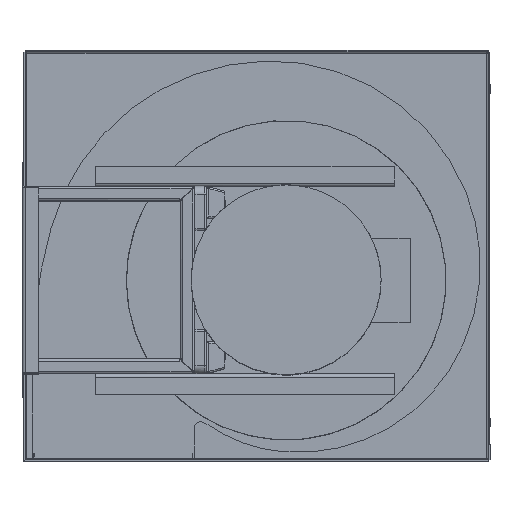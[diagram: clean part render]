
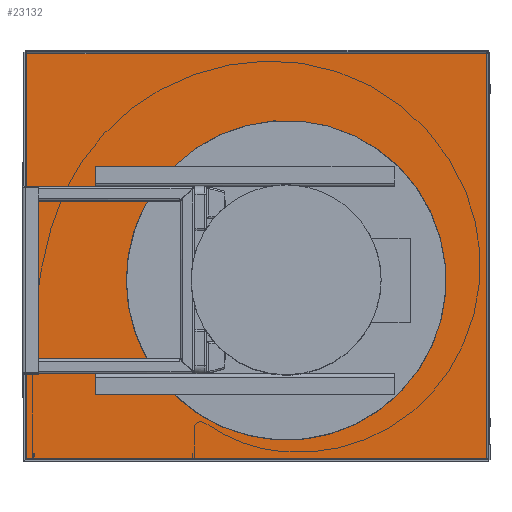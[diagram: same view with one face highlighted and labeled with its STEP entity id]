
A CAD part, top view. The second image highlights one B-rep face of the part: STEP entity #23132.
In plain terms, the highlighted planar face has unit normal (0, 0, 1).
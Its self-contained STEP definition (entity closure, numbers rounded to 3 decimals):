
#333=CIRCLE('',#23543,11.65);
#2774=FACE_BOUND('',#5269,.T.);
#3987=FACE_OUTER_BOUND('',#5268,.T.);
#5268=EDGE_LOOP('',(#20589,#20590,#20591,#20592));
#5269=EDGE_LOOP('',(#20593));
#7275=LINE('',#47719,#9247);
#7276=LINE('',#47721,#9248);
#7277=LINE('',#47723,#9249);
#7278=LINE('',#47724,#9250);
#9247=VECTOR('',#29654,35.875);
#9248=VECTOR('',#29655,49.6);
#9249=VECTOR('',#29656,56.4);
#9250=VECTOR('',#29657,49.6);
#10394=VERTEX_POINT('',#37873);
#11373=VERTEX_POINT('',#47717);
#11374=VERTEX_POINT('',#47718);
#11375=VERTEX_POINT('',#47720);
#11376=VERTEX_POINT('',#47722);
#12954=EDGE_CURVE('',#10394,#10394,#333,.T.);
#14628=EDGE_CURVE('',#11373,#11374,#7275,.T.);
#14629=EDGE_CURVE('',#11374,#11375,#7276,.T.);
#14630=EDGE_CURVE('',#11375,#11376,#7277,.T.);
#14631=EDGE_CURVE('',#11376,#11373,#7278,.T.);
#20589=ORIENTED_EDGE('',*,*,#14628,.T.);
#20590=ORIENTED_EDGE('',*,*,#14629,.T.);
#20591=ORIENTED_EDGE('',*,*,#14630,.T.);
#20592=ORIENTED_EDGE('',*,*,#14631,.T.);
#20593=ORIENTED_EDGE('',*,*,#12954,.T.);
#21936=PLANE('',#24690);
#23132=ADVANCED_FACE('',(#3987,#2774),#21936,.F.);
#23543=AXIS2_PLACEMENT_3D('',#37874,#26280,#26281);
#24690=AXIS2_PLACEMENT_3D('',#47716,#29652,#29653);
#26280=DIRECTION('center_axis',(0.,0.,-1.));
#26281=DIRECTION('ref_axis',(0.,1.,0.));
#29652=DIRECTION('center_axis',(0.,0.,-1.));
#29653=DIRECTION('ref_axis',(-1.,0.,0.));
#29654=DIRECTION('',(1.,0.,0.));
#29655=DIRECTION('',(0.,1.,0.));
#29656=DIRECTION('',(-1.,0.,0.));
#29657=DIRECTION('',(0.,-1.,0.));
#37873=CARTESIAN_POINT('',(55.337,96.729,0.2));
#37874=CARTESIAN_POINT('Origin',(55.337,108.379,0.2));
#47716=CARTESIAN_POINT('Origin',(38.153,115.497,0.2));
#47717=CARTESIAN_POINT('',(23.537,86.579,0.2));
#47718=CARTESIAN_POINT('',(79.937,86.579,0.2));
#47719=CARTESIAN_POINT('',(37.537,86.579,0.2));
#47720=CARTESIAN_POINT('',(79.937,136.179,0.2));
#47721=CARTESIAN_POINT('',(79.937,98.879,0.2));
#47722=CARTESIAN_POINT('',(23.537,136.179,0.2));
#47723=CARTESIAN_POINT('',(65.837,136.179,0.2));
#47724=CARTESIAN_POINT('',(23.537,123.779,0.2));
